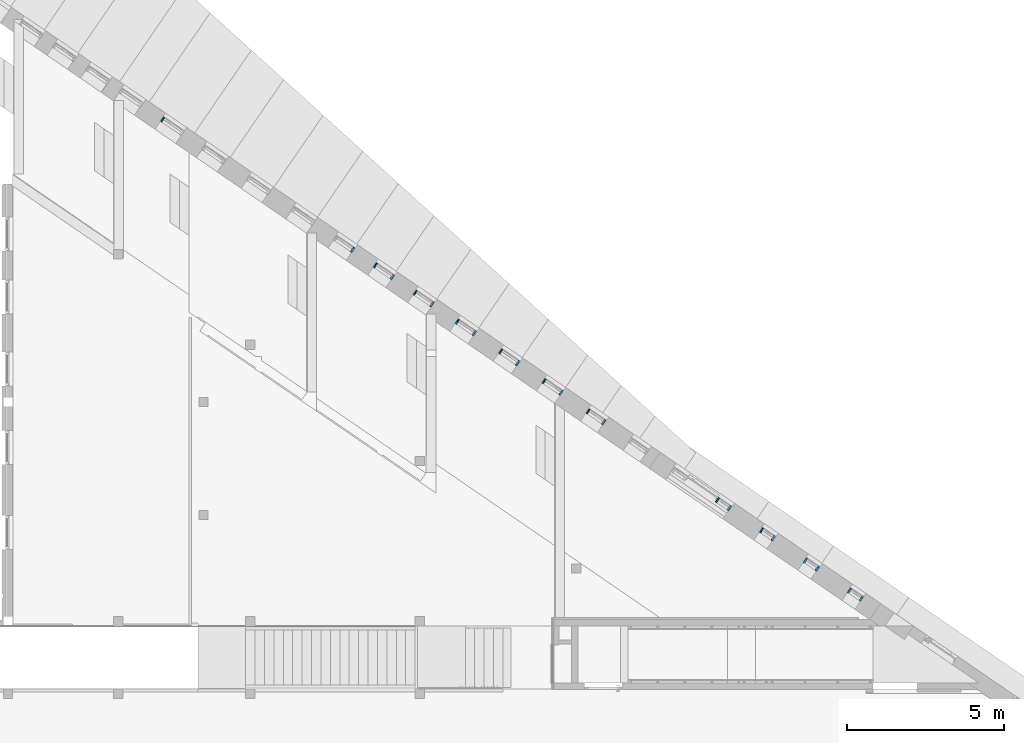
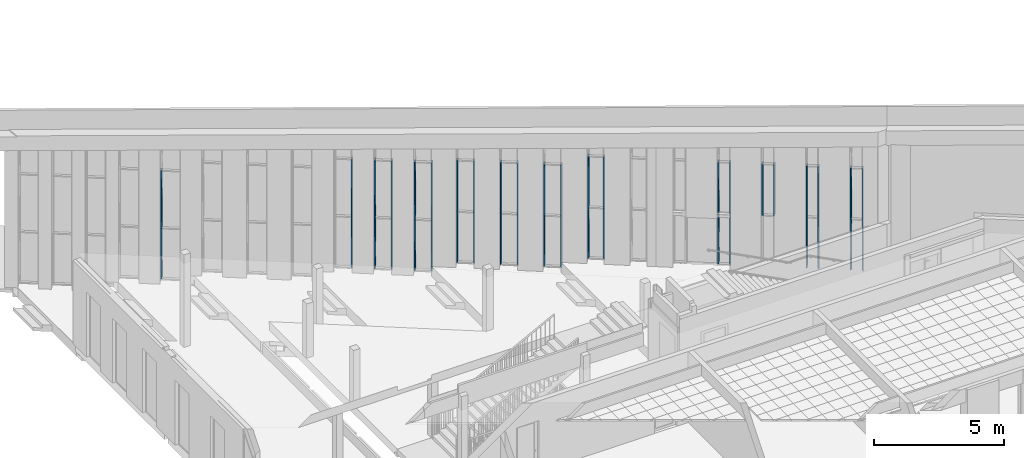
# One storey, part 12 of 79: 42 members, 12 elements without a shape of their own.
"""IFC2X3 building model written with IfcOpenShell, lengths in millimetres."""

from ifc_helpers import new_model, entity, si_unit, converted_unit, derived_unit, money_unit, direction, frame, origin_with_axes, place, context, subcontext, project, spatial, faceted_brep, source, transform, mapped, material, type_object, element, aggregate, save


model = new_model("IFC2X3")

# Units and contexts
model_context = context("Model", 3, precision=0.01, world=origin_with_axes(), true_north=direction((0.0, 1.0)))
body_context = subcontext(model_context, "Body", "Model", "MODEL_VIEW")
ifc_project = project(units=[si_unit("LENGTHUNIT", "METRE", prefix="MILLI"), si_unit("AREAUNIT", "SQUARE_METRE"), si_unit("VOLUMEUNIT", "CUBIC_METRE"), converted_unit("PLANEANGLEUNIT", "DEGREE", entity("IfcPlaneAngleMeasure", 0.0174532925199), si_unit("PLANEANGLEUNIT", "RADIAN"), dimensions=[0, 0, 0, 0, 0, 0, 0]), si_unit("SOLIDANGLEUNIT", "STERADIAN"), money_unit("EUR"), converted_unit("TIMEUNIT", "Year", entity("IfcTimeMeasure", 31556926.0), si_unit("TIMEUNIT", "SECOND"), dimensions=[0, 0, 1, 0, 0, 0, 0]), si_unit("MASSUNIT", "GRAM", prefix="KILO"), si_unit("THERMODYNAMICTEMPERATUREUNIT", "DEGREE_CELSIUS"), si_unit("LUMINOUSINTENSITYUNIT", "LUMEN"), si_unit("ENERGYUNIT", "JOULE", prefix="MEGA"), derived_unit("THERMALCONDUCTANCEUNIT", [(si_unit("POWERUNIT", "WATT"), 1), (si_unit("LENGTHUNIT", "METRE"), -1), (si_unit("THERMODYNAMICTEMPERATUREUNIT", "KELVIN"), -1)]), derived_unit("SPECIFICHEATCAPACITYUNIT", [(si_unit("ENERGYUNIT", "JOULE"), 1), (si_unit("MASSUNIT", "GRAM", prefix="KILO"), -1), (si_unit("THERMODYNAMICTEMPERATUREUNIT", "KELVIN"), -1)]), derived_unit("MASSDENSITYUNIT", [(si_unit("MASSUNIT", "GRAM", prefix="KILO"), 1), (si_unit("VOLUMEUNIT", "CUBIC_METRE"), -1)])], contexts=[model_context])

# Site, building, storey
site_placement = place(None, origin_with_axes())
site = spatial("IfcSite", under=ifc_project, at=site_placement, Name="L.Koidula tn 11b", CompositionType="ELEMENT")
building_placement = place(site_placement, origin_with_axes())
building = spatial("IfcBuilding", under=site, at=building_placement, Name="Rakvere Riigigümnaasium", CompositionType="ELEMENT")
storey_placement = place(building_placement, frame((0.0, 0.0, 3720.0), z_axis=(0.0, 0.0, 1.0), x_axis=(1.0, 0.0, 0.0)))
storey = spatial("IfcBuildingStorey", under=building, at=storey_placement, Name="2.korrus +3,72", CompositionType="ELEMENT", Elevation=3720.0)

# Curtain wall, member
curtain_wall_type = type_object("IfcCurtainWallType", Name="Curtain Wall Type", PredefinedType="NOTDEFINED")
curtain_wall_1_placement = place(storey_placement, frame((63291.7064528, 33067.985779, -1395.00012232), z_axis=(0.0, 0.0, 1.0), x_axis=(1.0, 0.0, 0.0)))
curtain_wall_1 = element("IfcCurtainWall", 1, at=curtain_wall_1_placement, inside=storey, type_object=curtain_wall_type, Name="KLF-06-17")
ifc_material = material(Name="Alumiiniumprofiil (RAL 7021)")
member_type = type_object("IfcMemberType", Name="Boundary Frame 50 x 170", PredefinedType="MULLION")
shared_shape_1 = source(origin_with_axes(), body_context, "Body", "Brep", [
    faceted_brep([(-37.0, -26.0, 2700.00000012), (-50.0, -26.0, 2700.00000012), (-50.0, -124.0, 2700.00000012), (0.0, -124.0, 2700.00000012), (0.0, 46.0, 2700.00000012), (-50.0, 46.0, 2700.00000012), (-50.0, 26.0, 2700.00000012), (-37.0, 26.0, 2700.00000012), (-37.0, -26.0, -5.18836085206e-07), (-50.0, -26.0, -5.18836307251e-07), (-50.0, -124.0, -5.18836307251e-07), (0.0, -124.0, -5.18836307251e-07), (0.0, 46.0, -5.18836307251e-07), (-50.0, 46.0, -5.18836307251e-07), (-50.0, 26.0, -5.18836307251e-07), (-37.0, 26.0, -5.18836085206e-07)], [[[0, 1, 2, 3, 4, 5, 6, 7]], [[0, 8, 9, 1]], [[9, 10, 2, 1]], [[10, 11, 3, 2]], [[11, 12, 4, 3]], [[12, 13, 5, 4]], [[6, 5, 13, 14]], [[14, 15, 7, 6]], [[7, 15, 8, 0]], [[8, 15, 14, 13, 12, 11, 10, 9]]]),
])
member_1_placement = place(curtain_wall_1_placement, frame((-329.866454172, 226.247835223, 5100.00020418), z_axis=(0.0, 0.0, -1.0), x_axis=(0.824666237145, -0.565619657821, 0.0)))
member_1 = element("IfcMember", 2, at=member_1_placement, type_object=member_type, material=ifc_material, Name="KLF-06-40-Profiilid", ObjectType="MULLION", context=body_context, shape_type="MappedRepresentation", body=[
    mapped(shared_shape_1, transform((0.0, 0.0, 0.0), x_axis=(-1.0, 0.0, 0.0), y_axis=(0.0, -1.0, 0.0), z_axis=(0.0, 0.0, 1.0))),
])

curtain_wall_2_placement = place(storey_placement, frame((68763.037451, 29315.3232528, -465.000107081), z_axis=(0.0, 0.0, 1.0), x_axis=(1.0, 0.0, 0.0)))
curtain_wall_2 = element("IfcCurtainWall", 3, at=curtain_wall_2_placement, inside=storey, type_object=curtain_wall_type, Name="KLF-06-13")
member_2_placement = place(curtain_wall_2_placement, frame((288.633097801, -197.966821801, 2400.00017192), z_axis=(3.57043882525e-08, -2.44888198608e-08, 1.0), x_axis=(-0.824666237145, 0.565619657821, 4.32955614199e-08)))
member_2 = element("IfcMember", 4, at=member_2_placement, type_object=member_type, material=ifc_material, Name="KLF-06-32-Profiilid", ObjectType="MULLION", context=body_context, shape_type="MappedRepresentation", body=[
    mapped(shared_shape_1, transform((0.0, 0.0, 0.0), x_axis=(-1.0, 0.0, 4.32955614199e-08), y_axis=(0.0, -1.0, 0.0), z_axis=(4.32955614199e-08, 0.0, 1.0))),
])

# Curtain wall, members
curtain_wall_3_placement = place(storey_placement, frame((70025.1098687, 28449.7063598, -465.0), z_axis=(0.0, 0.0, 1.0), x_axis=(1.0, 0.0, 0.0)))
curtain_wall_3 = element("IfcCurtainWall", 5, at=curtain_wall_3_placement, inside=storey, type_object=curtain_wall_type, Name="KLF-06-12")
member_3_placement = place(curtain_wall_3_placement, frame((-288.63312114, 197.966837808, 5100.00006484), z_axis=(-2.6695437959e-08, 1.83097902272e-08, -1.0), x_axis=(0.824666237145, -0.565619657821, -3.23712036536e-08)))
member_3 = element("IfcMember", 6, at=member_3_placement, type_object=member_type, material=ifc_material, Name="KLF-06-52-Profiilid", ObjectType="MULLION", context=body_context, shape_type="MappedRepresentation", body=[
    mapped(shared_shape_1, transform((0.0, 0.0, 0.0), x_axis=(-1.0, 0.0, 3.23712035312e-08), y_axis=(0.0, -1.0, 0.0), z_axis=(3.23712035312e-08, 0.0, 1.0))),
])
member_4_placement = place(curtain_wall_3_placement, frame((288.633066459, -197.966800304, 2400.00006484), z_axis=(2.32465319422e-08, -1.59442618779e-08, 1.0), x_axis=(-0.824666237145, 0.565619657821, 2.8189017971e-08)))
member_4 = element("IfcMember", 7, at=member_4_placement, type_object=member_type, material=ifc_material, Name="KLF-06-48-Profiilid", ObjectType="MULLION", context=body_context, shape_type="MappedRepresentation", body=[
    mapped(shared_shape_1, transform((0.0, 0.0, 0.0), x_axis=(-1.0, 0.0, 2.8189017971e-08), y_axis=(0.0, -1.0, 0.0), z_axis=(2.8189017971e-08, 0.0, 1.0))),
])

curtain_wall_4_placement = place(storey_placement, frame((71295.0958138, 27578.652128, -465.0), z_axis=(0.0, 0.0, 1.0), x_axis=(1.0, 0.0, 0.0)))
curtain_wall_4 = element("IfcCurtainWall", 8, at=curtain_wall_4_placement, inside=storey, type_object=curtain_wall_type, Name="KLF-06-11")
member_5_placement = place(curtain_wall_4_placement, frame((-288.633107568, 197.9668285, 5100.00006484), z_axis=(0.0, 0.0, -1.0), x_axis=(0.824666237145, -0.565619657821, 0.0)))
member_5 = element("IfcMember", 9, at=member_5_placement, type_object=member_type, material=ifc_material, Name="KLF-06-42-Profiilid", ObjectType="MULLION", context=body_context, shape_type="MappedRepresentation", body=[
    mapped(shared_shape_1, transform((0.0, 0.0, 0.0), x_axis=(-1.0, 0.0, 0.0), y_axis=(0.0, -1.0, 0.0), z_axis=(0.0, 0.0, 1.0))),
])
member_6_placement = place(curtain_wall_4_placement, frame((288.633050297, -197.966789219, 2400.00006484), z_axis=(1.49499402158e-08, -1.02538224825e-08, 1.0), x_axis=(-0.824666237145, 0.565619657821, 1.81284745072e-08)))
member_6 = element("IfcMember", 10, at=member_6_placement, type_object=member_type, material=ifc_material, Name="KLF-06-38-Profiilid", ObjectType="MULLION", context=body_context, shape_type="MappedRepresentation", body=[
    mapped(shared_shape_1, transform((0.0, 0.0, 0.0), x_axis=(-1.0, 0.0, 1.81284745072e-08), y_axis=(0.0, -1.0, 0.0), z_axis=(1.81284745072e-08, 0.0, 1.0))),
])

# Member
shared_shape_2 = source(origin_with_axes(), body_context, "Body", "Brep", [
    faceted_brep([(-37.0, -26.0, 2400.00000019), (-50.0, -26.0, 2400.00000019), (-50.0, -124.0, 2400.00000019), (0.0, -124.0, 2400.00000019), (0.0, 46.0, 2400.00000019), (-50.0, 46.0, 2400.00000019), (-50.0, 26.0, 2400.00000019), (-37.0, 26.0, 2400.00000019), (-37.0, -26.0, 37.0), (-50.0, -26.0, 50.0), (-50.0, -124.0, 50.0), (0.0, -124.0, 0.0), (0.0, 46.0, 0.0), (-50.0, 46.0, 50.0), (-50.0, 26.0, 50.0), (-37.0, 26.0, 37.0)], [[[0, 1, 2, 3, 4, 5, 6, 7]], [[0, 8, 9, 1]], [[9, 10, 2, 1]], [[2, 10, 11, 3]], [[3, 11, 12, 4]], [[4, 12, 13, 5]], [[6, 5, 13, 14]], [[14, 15, 7, 6]], [[7, 15, 8, 0]], [[8, 15, 14, 13, 12, 11, 10, 9]]]),
])
member_7_placement = place(curtain_wall_2_placement, frame((288.633097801, -197.966821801, 0.0), z_axis=(0.0, 0.0, 1.0), x_axis=(-0.824666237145, 0.565619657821, 0.0)))
member_7 = element("IfcMember", 11, at=member_7_placement, type_object=member_type, material=ifc_material, Name="KLF-06-31-Profiilid", ObjectType="MULLION", context=body_context, shape_type="MappedRepresentation", body=[
    mapped(shared_shape_2, transform((0.0, 0.0, 0.0), x_axis=(-1.0, 0.0, 0.0), y_axis=(0.0, -1.0, 0.0), z_axis=(0.0, 0.0, 1.0))),
])

aggregate(curtain_wall_2, [member_2, member_7])

member_8_placement = place(curtain_wall_3_placement, frame((288.63299444, -197.966750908, 0.0), z_axis=(3.00080189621e-08, -2.0581814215e-08, 1.0), x_axis=(-0.824666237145, 0.565619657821, 3.63880787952e-08)))
member_8 = element("IfcMember", 12, at=member_8_placement, type_object=member_type, material=ifc_material, Name="KLF-06-47-Profiilid", ObjectType="MULLION", context=body_context, shape_type="MappedRepresentation", body=[
    mapped(shared_shape_2, transform((0.0, 0.0, 0.0), x_axis=(-1.0, 0.0, 3.63880787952e-08), y_axis=(0.0, -1.0, 0.0), z_axis=(3.63880787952e-08, 0.0, 1.0))),
])

member_9_placement = place(curtain_wall_4_placement, frame((288.632977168, -197.966739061, 0.0), z_axis=(3.04706000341e-08, -2.08990848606e-08, 1.0), x_axis=(-0.824666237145, 0.565619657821, 3.69490083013e-08)))
member_9 = element("IfcMember", 13, at=member_9_placement, type_object=member_type, material=ifc_material, Name="KLF-06-37-Profiilid", ObjectType="MULLION", context=body_context, shape_type="MappedRepresentation", body=[
    mapped(shared_shape_2, transform((0.0, 0.0, 0.0), x_axis=(-1.0, 0.0, 3.69490083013e-08), y_axis=(0.0, -1.0, 0.0), z_axis=(3.69490083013e-08, 0.0, 1.0))),
])

# Curtain wall, member
curtain_wall_5_placement = place(storey_placement, frame((72639.3001548, 26656.6898396, 0.0), z_axis=(0.0, 0.0, 1.0), x_axis=(1.0, 0.0, 0.0)))
curtain_wall_5 = element("IfcCurtainWall", 14, at=curtain_wall_5_placement, inside=storey, type_object=curtain_wall_type, Name="KLF-06-10")
member_10_placement = place(curtain_wall_5_placement, frame((288.633017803, -197.966766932, 0.0), z_axis=(2.85994509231e-08, -1.96157085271e-08, 1.0), x_axis=(-0.824666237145, 0.565619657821, 3.46800319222e-08)))
member_10 = element("IfcMember", 15, at=member_10_placement, type_object=member_type, material=ifc_material, Name="KLF-06-20-Profiilid", ObjectType="MULLION", context=body_context, shape_type="MappedRepresentation", body=[
    mapped(shared_shape_2, transform((0.0, 0.0, 0.0), x_axis=(-1.0, 0.0, 3.46800319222e-08), y_axis=(0.0, -1.0, 0.0), z_axis=(3.46800319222e-08, 0.0, 1.0))),
])

curtain_wall_6_placement = place(storey_placement, frame((74020.6159263, 25709.2765329, 0.0), z_axis=(0.0, 0.0, 1.0), x_axis=(1.0, 0.0, 0.0)))
curtain_wall_6 = element("IfcCurtainWall", 16, at=curtain_wall_6_placement, inside=storey, type_object=curtain_wall_type, Name="KLF-06-09")
member_11_placement = place(curtain_wall_6_placement, frame((288.633179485, -197.966877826, 0.0), z_axis=(0.0, 0.0, 1.0), x_axis=(-0.824666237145, 0.565619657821, 0.0)))
member_11 = element("IfcMember", 17, at=member_11_placement, type_object=member_type, material=ifc_material, Name="KLF-06-19-Profiilid", ObjectType="MULLION", context=body_context, shape_type="MappedRepresentation", body=[
    mapped(shared_shape_2, transform((0.0, 0.0, 0.0), x_axis=(-1.0, 0.0, 0.0), y_axis=(0.0, -1.0, 0.0), z_axis=(0.0, 0.0, 1.0))),
])

curtain_wall_7_placement = place(storey_placement, frame((75401.9316286, 24761.8632578, 0.0), z_axis=(0.0, 0.0, 1.0), x_axis=(1.0, 0.0, 0.0)))
curtain_wall_7 = element("IfcCurtainWall", 18, at=curtain_wall_7_placement, inside=storey, type_object=curtain_wall_type, Name="KLF-06-08")
member_12_placement = place(curtain_wall_7_placement, frame((288.633105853, -197.966827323, 0.0), z_axis=(0.0, 0.0, 1.0), x_axis=(-0.824666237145, 0.565619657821, 0.0)))
member_12 = element("IfcMember", 19, at=member_12_placement, type_object=member_type, material=ifc_material, Name="KLF-06-17-Profiilid", ObjectType="MULLION", context=body_context, shape_type="MappedRepresentation", body=[
    mapped(shared_shape_2, transform((0.0, 0.0, 0.0), x_axis=(-1.0, 0.0, 0.0), y_axis=(0.0, -1.0, 0.0), z_axis=(0.0, 0.0, 1.0))),
])

curtain_wall_8_placement = place(storey_placement, frame((76782.8909829, 23814.6943938, 465.0), z_axis=(0.0, 0.0, 1.0), x_axis=(1.0, 0.0, 0.0)))
curtain_wall_8 = element("IfcCurtainWall", 20, at=curtain_wall_8_placement, inside=storey, type_object=curtain_wall_type, Name="KLF-06-07")
member_13_placement = place(curtain_wall_8_placement, frame((268.016199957, -183.826164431, 0.0), z_axis=(1.10960233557e-07, -7.61050816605e-08, 1.0), x_axis=(-0.824666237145, 0.565619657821, 1.34551688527e-07)))
member_13 = element("IfcMember", 21, at=member_13_placement, type_object=member_type, material=ifc_material, Name="KLF-06-17-Profiilid", ObjectType="MULLION", context=body_context, shape_type="MappedRepresentation", body=[
    mapped(shared_shape_2, transform((0.0, 0.0, 0.0), x_axis=(-1.0, 0.0, 1.34551688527e-07), y_axis=(0.0, -1.0, 0.0), z_axis=(1.34551688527e-07, 0.0, 1.0))),
])

curtain_wall_9_placement = place(storey_placement, frame((80844.1957644, 21028.8193943, 465.0), z_axis=(0.0, 0.0, 1.0), x_axis=(1.0, 0.0, 0.0)))
curtain_wall_9 = element("IfcCurtainWall", 22, at=curtain_wall_9_placement, inside=storey, type_object=curtain_wall_type, Name="KLF-06-04")
member_14_placement = place(curtain_wall_9_placement, frame((206.166465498, -141.404850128, 0.0), z_axis=(0.0, 0.0, 1.0), x_axis=(-0.824666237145, 0.565619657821, 0.0)))
member_14 = element("IfcMember", 23, at=member_14_placement, type_object=member_type, material=ifc_material, Name="KLF-06-14-Profiilid", ObjectType="MULLION", context=body_context, shape_type="MappedRepresentation", body=[
    mapped(shared_shape_2, transform((0.0, 0.0, 0.0), x_axis=(-1.0, 0.0, 0.0), y_axis=(0.0, -1.0, 0.0), z_axis=(0.0, 0.0, 1.0))),
])

curtain_wall_10_placement = place(storey_placement, frame((83648.21223, 19105.9329046, 464.999957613), z_axis=(0.0, 0.0, 1.0), x_axis=(1.0, 0.0, 0.0)))
curtain_wall_10 = element("IfcCurtainWall", 24, at=curtain_wall_10_placement, inside=storey, type_object=curtain_wall_type, Name="KLF-06-02")
member_15_placement = place(curtain_wall_10_placement, frame((206.166352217, -141.404772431, 0.0), z_axis=(3.0250745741e-08, -2.0748294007e-08, 1.0), x_axis=(-0.824666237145, 0.565619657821, 3.66824116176e-08)))
member_15 = element("IfcMember", 25, at=member_15_placement, type_object=member_type, material=ifc_material, Name="KLF-06-05-Profiilid", ObjectType="MULLION", context=body_context, shape_type="MappedRepresentation", body=[
    mapped(shared_shape_2, transform((0.0, 0.0, 0.0), x_axis=(-1.0, 0.0, 3.66824116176e-08), y_axis=(0.0, -1.0, 0.0), z_axis=(3.66824116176e-08, 0.0, 1.0))),
])

curtain_wall_11_placement = place(storey_placement, frame((85050.1449307, 18144.3794194, 464.999921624), z_axis=(0.0, 0.0, 1.0), x_axis=(1.0, 0.0, 0.0)))
curtain_wall_11 = element("IfcCurtainWall", 26, at=curtain_wall_11_placement, inside=storey, type_object=curtain_wall_type, Name="KLF-06-01")
member_16_placement = place(curtain_wall_11_placement, frame((206.166312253, -141.404745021, 0.0), z_axis=(3.07681032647e-08, -2.11031372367e-08, 1.0), x_axis=(-0.824666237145, 0.565619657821, 3.73097652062e-08)))
member_16 = element("IfcMember", 27, at=member_16_placement, type_object=member_type, material=ifc_material, Name="KLF-06-10-Profiilid", ObjectType="MULLION", context=body_context, shape_type="MappedRepresentation", body=[
    mapped(shared_shape_2, transform((0.0, 0.0, 0.0), x_axis=(-1.0, 0.0, 3.73097652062e-08), y_axis=(0.0, -1.0, 0.0), z_axis=(3.73097652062e-08, 0.0, 1.0))),
])

# Member
shared_shape_3 = source(origin_with_axes(), body_context, "Body", "Brep", [
    faceted_brep([(-37.0, -26.0, 2362.99999837), (-50.0, -26.0, 2349.99999779), (-50.0, -124.0, 2349.99999779), (0.0, -124.0, 2400.0), (0.0, 46.0, 2400.0), (-50.0, 46.0, 2349.99999779), (-50.0, 26.0, 2349.99999779), (-37.0, 26.0, 2362.99999837), (-37.0, -26.0, -1.22574839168e-07), (-50.0, -26.0, -1.22575061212e-07), (-50.0, -124.0, -1.22575061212e-07), (0.0, -124.0, -1.22575061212e-07), (0.0, 46.0, -1.22575061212e-07), (-50.0, 46.0, -1.22575061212e-07), (-50.0, 26.0, -1.22575061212e-07), (-37.0, 26.0, -1.22574839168e-07)], [[[0, 1, 2, 3, 4, 5, 6, 7]], [[0, 8, 9, 1]], [[9, 10, 2, 1]], [[10, 11, 3, 2]], [[11, 12, 4, 3]], [[12, 13, 5, 4]], [[6, 5, 13, 14]], [[14, 15, 7, 6]], [[7, 15, 8, 0]], [[8, 15, 14, 13, 12, 11, 10, 9]]]),
])
member_17_placement = place(curtain_wall_1_placement, frame((-329.866454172, 226.247835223, 2400.00020418), z_axis=(0.0, 0.0, -1.0), x_axis=(0.824666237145, -0.565619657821, 0.0)))
member_17 = element("IfcMember", 28, at=member_17_placement, type_object=member_type, material=ifc_material, Name="KLF-06-33-Profiilid", ObjectType="MULLION", context=body_context, shape_type="MappedRepresentation", body=[
    mapped(shared_shape_3, transform((0.0, 0.0, 0.0), x_axis=(-1.0, 0.0, 0.0), y_axis=(0.0, -1.0, 0.0), z_axis=(0.0, 0.0, 1.0))),
])

aggregate(curtain_wall_1, [member_1, member_17])

member_18_placement = place(curtain_wall_3_placement, frame((-288.633193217, 197.966887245, 2400.00006484), z_axis=(-3.00323728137e-08, 2.05985134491e-08, -1.0), x_axis=(0.824666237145, -0.565619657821, -3.64176080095e-08)))
member_18 = element("IfcMember", 29, at=member_18_placement, type_object=member_type, material=ifc_material, Name="KLF-06-45-Profiilid", ObjectType="MULLION", context=body_context, shape_type="MappedRepresentation", body=[
    mapped(shared_shape_3, transform((0.0, 0.0, 0.0), x_axis=(-1.0, 0.0, 3.6417607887e-08), y_axis=(0.0, -1.0, 0.0), z_axis=(3.6417607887e-08, 0.0, 1.0))),
])

aggregate(curtain_wall_3, [member_3, member_18, member_4, member_8])

member_19_placement = place(curtain_wall_4_placement, frame((-288.633107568, 197.9668285, 2400.00006484), z_axis=(-3.04964697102e-08, 2.09168291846e-08, -1.0), x_axis=(0.824666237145, -0.565619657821, -3.69803786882e-08)))
member_19 = element("IfcMember", 30, at=member_19_placement, type_object=member_type, material=ifc_material, Name="KLF-06-43-Profiilid", ObjectType="MULLION", context=body_context, shape_type="MappedRepresentation", body=[
    mapped(shared_shape_3, transform((0.0, 0.0, 0.0), x_axis=(-1.0, 0.0, 3.69803785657e-08), y_axis=(0.0, -1.0, 0.0), z_axis=(3.69803785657e-08, 0.0, 1.0))),
])

aggregate(curtain_wall_4, [member_5, member_19, member_6, member_9])

member_20_placement = place(curtain_wall_5_placement, frame((-288.633054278, 197.966791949, 2400.00006484), z_axis=(-2.86071129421e-08, 1.96209635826e-08, -1.0), x_axis=(0.824666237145, -0.565619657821, -3.46893228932e-08)))
member_20 = element("IfcMember", 31, at=member_20_placement, type_object=member_type, material=ifc_material, Name="KLF-06-18-Profiilid", ObjectType="MULLION", context=body_context, shape_type="MappedRepresentation", body=[
    mapped(shared_shape_3, transform((0.0, 0.0, 0.0), x_axis=(-1.0, 0.0, 3.46893227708e-08), y_axis=(0.0, -1.0, 0.0), z_axis=(3.46893227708e-08, 0.0, 1.0))),
])

member_21_placement = place(curtain_wall_6_placement, frame((-288.633100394, 197.966823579, 2400.00006484), z_axis=(-2.90894174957e-08, 1.99517671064e-08, -1.0), x_axis=(0.824666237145, -0.565619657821, -3.52741721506e-08)))
member_21 = element("IfcMember", 32, at=member_21_placement, type_object=member_type, material=ifc_material, Name="KLF-06-17-Profiilid", ObjectType="MULLION", context=body_context, shape_type="MappedRepresentation", body=[
    mapped(shared_shape_3, transform((0.0, 0.0, 0.0), x_axis=(-1.0, 0.0, 3.52741720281e-08), y_axis=(0.0, -1.0, 0.0), z_axis=(3.52741720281e-08, 0.0, 1.0))),
])

member_22_placement = place(curtain_wall_7_placement, frame((-288.633070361, 197.96680298, 2400.00006484), z_axis=(-2.95763464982e-08, 2.02857369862e-08, -1.0), x_axis=(0.824666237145, -0.565619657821, -3.58646259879e-08)))
member_22 = element("IfcMember", 33, at=member_22_placement, type_object=member_type, material=ifc_material, Name="KLF-06-23-Profiilid", ObjectType="MULLION", context=body_context, shape_type="MappedRepresentation", body=[
    mapped(shared_shape_3, transform((0.0, 0.0, 0.0), x_axis=(-1.0, 0.0, 3.58646258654e-08), y_axis=(0.0, -1.0, 0.0), z_axis=(3.58646258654e-08, 0.0, 1.0))),
])

member_23_placement = place(curtain_wall_8_placement, frame((-268.0166193, 183.826452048, 2400.00006484), z_axis=(-2.76671596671e-08, 1.89762674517e-08, -1.0), x_axis=(0.824666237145, -0.565619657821, -3.35495223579e-08)))
member_23 = element("IfcMember", 34, at=member_23_placement, type_object=member_type, material=ifc_material, Name="KLF-06-15-Profiilid", ObjectType="MULLION", context=body_context, shape_type="MappedRepresentation", body=[
    mapped(shared_shape_3, transform((0.0, 0.0, 0.0), x_axis=(-1.0, 0.0, 3.35495222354e-08), y_axis=(0.0, -1.0, 0.0), z_axis=(3.35495222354e-08, 0.0, 1.0))),
])

member_24_placement = place(curtain_wall_9_placement, frame((-206.166336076, 141.404761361, 2400.00006484), z_axis=(0.0, 0.0, -1.0), x_axis=(0.824666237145, -0.565619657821, 0.0)))
member_24 = element("IfcMember", 35, at=member_24_placement, type_object=member_type, material=ifc_material, Name="KLF-06-12-Profiilid", ObjectType="MULLION", context=body_context, shape_type="MappedRepresentation", body=[
    mapped(shared_shape_3, transform((0.0, 0.0, 0.0), x_axis=(-1.0, 0.0, 0.0), y_axis=(0.0, -1.0, 0.0), z_axis=(0.0, 0.0, 1.0))),
])

shared_shape_4 = source(origin_with_axes(), body_context, "Body", "Brep", [
    faceted_brep([(-37.0, -26.0, 2400.00000087), (-50.0, -26.0, 2400.00000087), (-50.0, -124.0, 2400.00000087), (0.0, -124.0, 2400.00000087), (0.0, 46.0, 2400.00000087), (-50.0, 46.0, 2400.00000087), (-50.0, 26.0, 2400.00000087), (-37.0, 26.0, 2400.00000087), (-37.0, -26.0, -6.12986372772e-06), (-50.0, -26.0, -6.12986394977e-06), (-50.0, -124.0, -6.12986394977e-06), (0.0, -124.0, -6.12986394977e-06), (0.0, 46.0, -6.12986394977e-06), (-50.0, 46.0, -6.12986394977e-06), (-50.0, 26.0, -6.12986394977e-06), (-37.0, 26.0, -6.12986372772e-06)], [[[0, 1, 2, 3, 4, 5, 6, 7]], [[0, 8, 9, 1]], [[9, 10, 2, 1]], [[10, 11, 3, 2]], [[11, 12, 4, 3]], [[12, 13, 5, 4]], [[6, 5, 13, 14]], [[14, 15, 7, 6]], [[7, 15, 8, 0]], [[8, 15, 14, 13, 12, 11, 10, 9]]]),
])
member_25_placement = place(curtain_wall_5_placement, frame((-288.633054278, 197.966791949, 4800.00006484), z_axis=(0.0, 0.0, -1.0), x_axis=(0.824666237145, -0.565619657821, 0.0)))
member_25 = element("IfcMember", 36, at=member_25_placement, type_object=member_type, material=ifc_material, Name="KLF-06-25-Profiilid", ObjectType="MULLION", context=body_context, shape_type="MappedRepresentation", body=[
    mapped(shared_shape_4, transform((0.0, 0.0, 0.0), x_axis=(-1.0, 0.0, 0.0), y_axis=(0.0, -1.0, 0.0), z_axis=(0.0, 0.0, 1.0))),
])

member_26_placement = place(curtain_wall_5_placement, frame((288.633086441, -197.966814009, 2400.00006484), z_axis=(1.88340424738e-08, -1.29178401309e-08, 1.0), x_axis=(-0.824666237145, 0.565619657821, 2.28383832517e-08)))
member_26 = element("IfcMember", 37, at=member_26_placement, type_object=member_type, material=ifc_material, Name="KLF-06-21-Profiilid", ObjectType="MULLION", context=body_context, shape_type="MappedRepresentation", body=[
    mapped(shared_shape_4, transform((0.0, 0.0, 0.0), x_axis=(-1.0, 0.0, 2.28383832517e-08), y_axis=(0.0, -1.0, 0.0), z_axis=(2.28383832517e-08, 0.0, 1.0))),
])

aggregate(curtain_wall_5, [member_25, member_20, member_26, member_10])

member_27_placement = place(curtain_wall_6_placement, frame((-288.633100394, 197.966823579, 4800.00006484), z_axis=(0.0, 0.0, -1.0), x_axis=(0.824666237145, -0.565619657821, 0.0)))
member_27 = element("IfcMember", 38, at=member_27_placement, type_object=member_type, material=ifc_material, Name="KLF-06-24-Profiilid", ObjectType="MULLION", context=body_context, shape_type="MappedRepresentation", body=[
    mapped(shared_shape_4, transform((0.0, 0.0, 0.0), x_axis=(-1.0, 0.0, 0.0), y_axis=(0.0, -1.0, 0.0), z_axis=(0.0, 0.0, 1.0))),
])

member_28_placement = place(curtain_wall_6_placement, frame((288.633179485, -197.966877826, 2400.00006484), z_axis=(3.88335467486e-08, -2.6635037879e-08, 1.0), x_axis=(-0.824666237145, 0.565619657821, 4.70900158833e-08)))
member_28 = element("IfcMember", 39, at=member_28_placement, type_object=member_type, material=ifc_material, Name="KLF-06-20-Profiilid", ObjectType="MULLION", context=body_context, shape_type="MappedRepresentation", body=[
    mapped(shared_shape_4, transform((0.0, 0.0, 0.0), x_axis=(-1.0, 0.0, 4.70900158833e-08), y_axis=(0.0, -1.0, 0.0), z_axis=(4.70900158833e-08, 0.0, 1.0))),
])

aggregate(curtain_wall_6, [member_27, member_21, member_28, member_11])

member_29_placement = place(curtain_wall_7_placement, frame((-288.633070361, 197.96680298, 4800.00006484), z_axis=(0.0, 0.0, -1.0), x_axis=(0.824666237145, -0.565619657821, 0.0)))
member_29 = element("IfcMember", 40, at=member_29_placement, type_object=member_type, material=ifc_material, Name="KLF-06-22-Profiilid", ObjectType="MULLION", context=body_context, shape_type="MappedRepresentation", body=[
    mapped(shared_shape_4, transform((0.0, 0.0, 0.0), x_axis=(-1.0, 0.0, 0.0), y_axis=(0.0, -1.0, 0.0), z_axis=(0.0, 0.0, 1.0))),
])

member_30_placement = place(curtain_wall_7_placement, frame((288.633105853, -197.966827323, 2400.00006484), z_axis=(3.19455217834e-08, -2.19106999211e-08, 1.0), x_axis=(-0.824666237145, 0.565619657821, 3.87375158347e-08)))
member_30 = element("IfcMember", 41, at=member_30_placement, type_object=member_type, material=ifc_material, Name="KLF-06-18-Profiilid", ObjectType="MULLION", context=body_context, shape_type="MappedRepresentation", body=[
    mapped(shared_shape_4, transform((0.0, 0.0, 0.0), x_axis=(-1.0, 0.0, 3.87375158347e-08), y_axis=(0.0, -1.0, 0.0), z_axis=(3.87375158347e-08, 0.0, 1.0))),
])

aggregate(curtain_wall_7, [member_22, member_29, member_30, member_12])

member_31_placement = place(curtain_wall_8_placement, frame((-268.0166193, 183.826452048, 4800.00006484), z_axis=(0.0, 0.0, -1.0), x_axis=(0.824666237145, -0.565619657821, 0.0)))
member_31 = element("IfcMember", 42, at=member_31_placement, type_object=member_type, material=ifc_material, Name="KLF-06-22-Profiilid", ObjectType="MULLION", context=body_context, shape_type="MappedRepresentation", body=[
    mapped(shared_shape_4, transform((0.0, 0.0, 0.0), x_axis=(-1.0, 0.0, 0.0), y_axis=(0.0, -1.0, 0.0), z_axis=(0.0, 0.0, 1.0))),
])

member_32_placement = place(curtain_wall_8_placement, frame((268.016466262, -183.826347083, 2400.00006484), z_axis=(1.27531685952e-07, -8.74710555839e-08, 1.0), x_axis=(-0.824666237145, 0.565619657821, 1.546464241e-07)))
member_32 = element("IfcMember", 43, at=member_32_placement, type_object=member_type, material=ifc_material, Name="KLF-06-18-Profiilid", ObjectType="MULLION", context=body_context, shape_type="MappedRepresentation", body=[
    mapped(shared_shape_4, transform((0.0, 0.0, 0.0), x_axis=(-1.0, 0.0, 1.546464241e-07), y_axis=(0.0, -1.0, 0.0), z_axis=(1.546464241e-07, 0.0, 1.0))),
])

aggregate(curtain_wall_8, [member_31, member_23, member_32, member_13])

member_33_placement = place(curtain_wall_9_placement, frame((-206.166336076, 141.404761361, 4800.00006484), z_axis=(0.0, 0.0, -1.0), x_axis=(0.824666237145, -0.565619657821, 0.0)))
member_33 = element("IfcMember", 44, at=member_33_placement, type_object=member_type, material=ifc_material, Name="KLF-06-19-Profiilid", ObjectType="MULLION", context=body_context, shape_type="MappedRepresentation", body=[
    mapped(shared_shape_4, transform((0.0, 0.0, 0.0), x_axis=(-1.0, 0.0, 0.0), y_axis=(0.0, -1.0, 0.0), z_axis=(0.0, 0.0, 1.0))),
])

member_34_placement = place(curtain_wall_9_placement, frame((206.166465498, -141.404850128, 2400.00006484), z_axis=(-1.91815156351e-09, 1.31561428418e-09, 1.0), x_axis=(-0.824666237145, 0.565619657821, -2.3259721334e-09)))
member_34 = element("IfcMember", 45, at=member_34_placement, type_object=member_type, material=ifc_material, Name="KLF-06-15-Profiilid", ObjectType="MULLION", context=body_context, shape_type="MappedRepresentation", body=[
    mapped(shared_shape_4, transform((0.0, 0.0, 0.0), x_axis=(-1.0, 0.0, -2.3259721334e-09), y_axis=(0.0, -1.0, 0.0), z_axis=(-2.3259721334e-09, 0.0, 1.0))),
])

aggregate(curtain_wall_9, [member_33, member_24, member_34, member_14])

# Curtain wall, members
curtain_wall_12_placement = place(storey_placement, frame((82246.2623366, 20067.4976964, 464.999982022), z_axis=(0.0, 0.0, 1.0), x_axis=(1.0, 0.0, 0.0)))
curtain_wall_12 = element("IfcCurtainWall", 46, at=curtain_wall_12_placement, inside=storey, type_object=curtain_wall_type, Name="KLF-06-03")
member_35_placement = place(curtain_wall_12_placement, frame((206.140088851, -141.38675899, 2400.00008282), z_axis=(1.2720264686e-05, -8.72453780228e-06, 0.999999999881), x_axis=(-0.824666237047, 0.565619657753, 1.54247429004e-05)))
member_35 = element("IfcMember", 47, at=member_35_placement, type_object=member_type, material=ifc_material, Name="KLF-06-13-Profiilid", ObjectType="MULLION", context=body_context, shape_type="MappedRepresentation", body=[
    mapped(shared_shape_4, transform((0.0, 0.0, 0.0), x_axis=(-1.0, 0.0, 0.0), y_axis=(0.0, -1.0, 0.0), z_axis=(0.0, 0.0, 1.0))),
])
member_36_placement = place(curtain_wall_12_placement, frame((-206.152094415, 141.394993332, 4800.00008282), z_axis=(-2.71562785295e-06, 1.86258686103e-06, -0.999999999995), x_axis=(0.82466623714, -0.565619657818, -3.29300234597e-06)))
member_36 = element("IfcMember", 48, at=member_36_placement, type_object=member_type, material=ifc_material, Name="KLF-06-17-Profiilid", ObjectType="MULLION", context=body_context, shape_type="MappedRepresentation", body=[
    mapped(shared_shape_4, transform((0.0, 0.0, 0.0), x_axis=(-0.999999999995, 0.0, 3.29300234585e-06), y_axis=(0.0, -1.0, 0.0), z_axis=(3.29300234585e-06, 0.0, 0.999999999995))),
])
aggregate(curtain_wall_12, [member_35, member_36])

# Member
member_37_placement = place(curtain_wall_10_placement, frame((206.166424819, -141.404822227, 2400.00010722), z_axis=(5.5346506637e-08, -3.79608996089e-08, 1.0), x_axis=(-0.824666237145, 0.565619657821, 6.71138264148e-08)))
member_37 = element("IfcMember", 49, at=member_37_placement, type_object=member_type, material=ifc_material, Name="KLF-06-06-Profiilid", ObjectType="MULLION", context=body_context, shape_type="MappedRepresentation", body=[
    mapped(shared_shape_4, transform((0.0, 0.0, 0.0), x_axis=(-1.0, 0.0, 6.71138264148e-08), y_axis=(0.0, -1.0, 0.0), z_axis=(6.71138264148e-08, 0.0, 1.0))),
])

member_38_placement = place(curtain_wall_11_placement, frame((206.166386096, -141.404795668, 2400.00014321), z_axis=(5.74280534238e-08, -3.93885842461e-08, 1.0), x_axis=(-0.824666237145, 0.565619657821, 6.96379342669e-08)))
member_38 = element("IfcMember", 50, at=member_38_placement, type_object=member_type, material=ifc_material, Name="KLF-06-11-Profiilid", ObjectType="MULLION", context=body_context, shape_type="MappedRepresentation", body=[
    mapped(shared_shape_4, transform((0.0, 0.0, 0.0), x_axis=(-1.0, 0.0, 6.96379342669e-08), y_axis=(0.0, -1.0, 0.0), z_axis=(6.96379342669e-08, 0.0, 1.0))),
])

shared_shape_5 = source(origin_with_axes(), body_context, "Body", "Brep", [
    faceted_brep([(37.0, -26.0, 2400.0), (37.0, 26.0, 2400.0), (50.0, 26.0, 2400.0), (50.0, 46.0, 2400.0), (0.0, 46.0, 2400.0), (0.0, -124.0, 2400.0), (50.0, -124.0, 2400.0), (50.0, -26.0, 2400.0), (37.0, -26.0, 37.0), (37.0, 26.0, 37.0), (50.0, 26.0, 50.0), (50.0, 46.0, 50.0), (0.0, 46.0, 0.0), (0.0, -124.0, 0.0), (50.0, -124.0, 50.0), (50.0, -26.0, 50.0)], [[[0, 1, 2, 3, 4, 5, 6, 7]], [[1, 0, 8, 9]], [[10, 2, 1, 9]], [[2, 10, 11, 3]], [[4, 3, 11, 12]], [[5, 4, 12, 13]], [[6, 5, 13, 14]], [[15, 7, 6, 14]], [[0, 7, 15, 8]], [[8, 15, 14, 13, 12, 11, 10, 9]]]),
])
member_39_placement = place(curtain_wall_10_placement, frame((-206.166491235, 141.40486778, 0.0), z_axis=(0.0, 0.0, 1.0), x_axis=(-0.824666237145, 0.565619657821, 0.0)))
member_39 = element("IfcMember", 51, at=member_39_placement, type_object=member_type, material=ifc_material, Name="KLF-06-11-Profiilid", ObjectType="MULLION", context=body_context, shape_type="MappedRepresentation", body=[
    mapped(shared_shape_5, transform((0.0, 0.0, 0.0), x_axis=(-1.0, 0.0, 0.0), y_axis=(0.0, -1.0, 0.0), z_axis=(0.0, 0.0, 1.0))),
])

member_40_placement = place(curtain_wall_11_placement, frame((-206.166494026, 141.404869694, 0.0), z_axis=(0.0, 0.0, 1.0), x_axis=(-0.824666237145, 0.565619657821, 0.0)))
member_40 = element("IfcMember", 52, at=member_40_placement, type_object=member_type, material=ifc_material, Name="KLF-06-16-Profiilid", ObjectType="MULLION", context=body_context, shape_type="MappedRepresentation", body=[
    mapped(shared_shape_5, transform((0.0, 0.0, 0.0), x_axis=(-1.0, 0.0, 0.0), y_axis=(0.0, -1.0, 0.0), z_axis=(0.0, 0.0, 1.0))),
])

shared_shape_6 = source(origin_with_axes(), body_context, "Body", "Brep", [
    faceted_brep([(37.0, -26.0, 2400.0), (37.0, 26.0, 2400.0), (50.0, 26.0, 2400.0), (50.0, 46.0, 2400.0), (0.0, 46.0, 2400.0), (0.0, -124.0, 2400.0), (50.0, -124.0, 2400.0), (50.0, -26.0, 2400.0), (37.0, -26.0, 0.0), (37.0, 26.0, 0.0), (50.0, 26.0, 0.0), (50.0, 46.0, 0.0), (0.0, 46.0, 0.0), (0.0, -124.0, 0.0), (50.0, -124.0, 0.0), (50.0, -26.0, 0.0)], [[[0, 1, 2, 3, 4, 5, 6, 7]], [[1, 0, 8, 9]], [[10, 2, 1, 9]], [[2, 10, 11, 3]], [[12, 4, 3, 11]], [[13, 5, 4, 12]], [[14, 6, 5, 13]], [[15, 7, 6, 14]], [[0, 7, 15, 8]], [[8, 15, 14, 13, 12, 11, 10, 9]]]),
])
member_41_placement = place(curtain_wall_10_placement, frame((-206.166491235, 141.40486778, 2400.00010722), z_axis=(0.0, 0.0, 1.0), x_axis=(-0.824666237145, 0.565619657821, 0.0)))
member_41 = element("IfcMember", 53, at=member_41_placement, type_object=member_type, material=ifc_material, Name="KLF-06-10-Profiilid", ObjectType="MULLION", context=body_context, shape_type="MappedRepresentation", body=[
    mapped(shared_shape_6, transform((0.0, 0.0, 0.0), x_axis=(-1.0, 0.0, 0.0), y_axis=(0.0, -1.0, 0.0), z_axis=(0.0, 0.0, 1.0))),
])

aggregate(curtain_wall_10, [member_39, member_41, member_37, member_15])

member_42_placement = place(curtain_wall_11_placement, frame((-206.166494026, 141.404869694, 2400.00014321), z_axis=(0.0, 0.0, 1.0), x_axis=(-0.824666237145, 0.565619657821, 0.0)))
member_42 = element("IfcMember", 54, at=member_42_placement, type_object=member_type, material=ifc_material, Name="KLF-06-15-Profiilid", ObjectType="MULLION", context=body_context, shape_type="MappedRepresentation", body=[
    mapped(shared_shape_6, transform((0.0, 0.0, 0.0), x_axis=(-1.0, 0.0, 0.0), y_axis=(0.0, -1.0, 0.0), z_axis=(0.0, 0.0, 1.0))),
])

aggregate(curtain_wall_11, [member_40, member_42, member_38, member_16])

save(model, "model.ifc")
